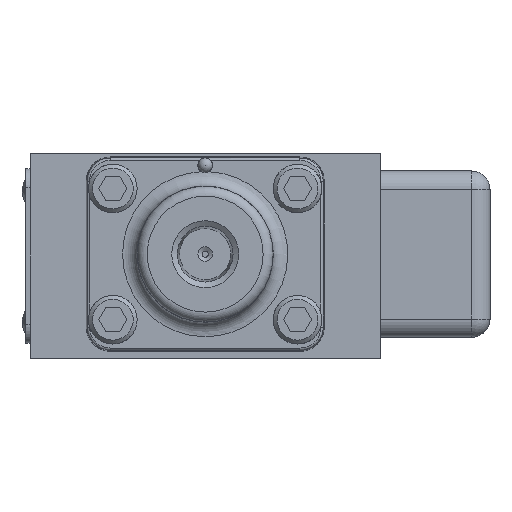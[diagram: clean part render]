
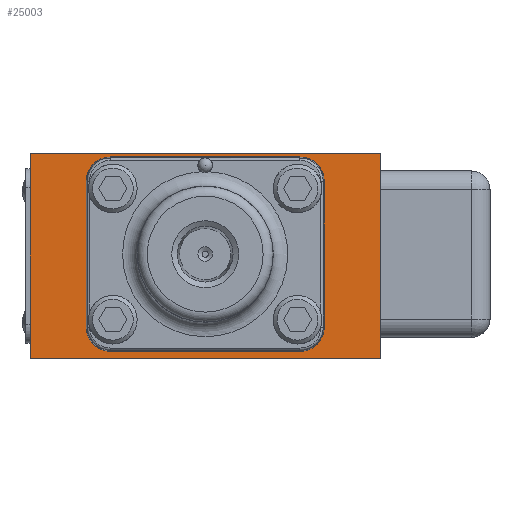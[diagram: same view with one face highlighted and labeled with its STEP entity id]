
A CAD part, left-side view. The second image highlights one B-rep face of the part: STEP entity #25003.
In plain terms, the highlighted planar face has unit normal (-1, 0, 0).
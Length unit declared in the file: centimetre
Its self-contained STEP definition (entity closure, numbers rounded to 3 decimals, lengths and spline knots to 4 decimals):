
#1019=FACE_BOUND('',#4019,.T.);
#1400=PLANE('',#27222);
#2414=FACE_OUTER_BOUND('',#4018,.T.);
#4018=EDGE_LOOP('',(#18539,#18540,#18541,#18542));
#4019=EDGE_LOOP('',(#18543,#18544,#18545,#18546,#18547,#18548,#18549,#18550));
#5596=LINE('',#41622,#7215);
#5604=LINE('',#41654,#7223);
#5630=LINE('',#41738,#7249);
#5699=LINE('',#42506,#7318);
#5700=LINE('',#42511,#7319);
#5701=LINE('',#42515,#7320);
#5702=LINE('',#42519,#7321);
#5703=LINE('',#42522,#7322);
#7215=VECTOR('',#31636,1.);
#7223=VECTOR('',#31662,1.);
#7249=VECTOR('',#31754,1.);
#7318=VECTOR('',#32183,1.);
#7319=VECTOR('',#32186,1.);
#7320=VECTOR('',#32189,1.);
#7321=VECTOR('',#32192,1.);
#7322=VECTOR('',#32195,1.);
#8887=CIRCLE('',#27223,0.4064);
#8888=CIRCLE('',#27224,0.4064);
#8889=CIRCLE('',#27225,0.4064);
#8890=CIRCLE('',#27226,0.4064);
#10586=VERTEX_POINT('',#41619);
#10587=VERTEX_POINT('',#41621);
#10602=VERTEX_POINT('',#41653);
#10627=VERTEX_POINT('',#41737);
#10745=VERTEX_POINT('',#42507);
#10746=VERTEX_POINT('',#42508);
#10747=VERTEX_POINT('',#42510);
#10748=VERTEX_POINT('',#42512);
#10749=VERTEX_POINT('',#42514);
#10750=VERTEX_POINT('',#42516);
#10751=VERTEX_POINT('',#42518);
#10752=VERTEX_POINT('',#42520);
#13292=EDGE_CURVE('',#10587,#10586,#5596,.T.);
#13308=EDGE_CURVE('',#10602,#10587,#5604,.T.);
#13347=EDGE_CURVE('',#10627,#10602,#5630,.T.);
#13534=EDGE_CURVE('',#10586,#10627,#5699,.T.);
#13535=EDGE_CURVE('',#10745,#10746,#8887,.T.);
#13536=EDGE_CURVE('',#10746,#10747,#5700,.T.);
#13537=EDGE_CURVE('',#10747,#10748,#8888,.T.);
#13538=EDGE_CURVE('',#10748,#10749,#5701,.T.);
#13539=EDGE_CURVE('',#10749,#10750,#8889,.T.);
#13540=EDGE_CURVE('',#10750,#10751,#5702,.T.);
#13541=EDGE_CURVE('',#10751,#10752,#8890,.T.);
#13542=EDGE_CURVE('',#10752,#10745,#5703,.T.);
#18539=ORIENTED_EDGE('',*,*,#13292,.T.);
#18540=ORIENTED_EDGE('',*,*,#13534,.T.);
#18541=ORIENTED_EDGE('',*,*,#13347,.T.);
#18542=ORIENTED_EDGE('',*,*,#13308,.T.);
#18543=ORIENTED_EDGE('',*,*,#13535,.T.);
#18544=ORIENTED_EDGE('',*,*,#13536,.T.);
#18545=ORIENTED_EDGE('',*,*,#13537,.T.);
#18546=ORIENTED_EDGE('',*,*,#13538,.T.);
#18547=ORIENTED_EDGE('',*,*,#13539,.T.);
#18548=ORIENTED_EDGE('',*,*,#13540,.T.);
#18549=ORIENTED_EDGE('',*,*,#13541,.T.);
#18550=ORIENTED_EDGE('',*,*,#13542,.T.);
#25003=ADVANCED_FACE('',(#2414,#1019),#1400,.T.);
#27222=AXIS2_PLACEMENT_3D('',#42505,#32181,#32182);
#27223=AXIS2_PLACEMENT_3D('',#42509,#32184,#32185);
#27224=AXIS2_PLACEMENT_3D('',#42513,#32187,#32188);
#27225=AXIS2_PLACEMENT_3D('',#42517,#32190,#32191);
#27226=AXIS2_PLACEMENT_3D('',#42521,#32193,#32194);
#31636=DIRECTION('',(0.,1.,0.));
#31662=DIRECTION('',(0.,0.,1.));
#31754=DIRECTION('',(0.,-1.,0.));
#32181=DIRECTION('center_axis',(-1.,0.,0.));
#32182=DIRECTION('ref_axis',(0.,0.,1.));
#32183=DIRECTION('',(0.,0.,-1.));
#32184=DIRECTION('center_axis',(1.,0.,0.));
#32185=DIRECTION('ref_axis',(0.,-1.,0.));
#32186=DIRECTION('',(0.,0.,1.));
#32187=DIRECTION('center_axis',(1.,0.,0.));
#32188=DIRECTION('ref_axis',(0.,0.,-1.));
#32189=DIRECTION('',(0.,-1.,0.));
#32190=DIRECTION('center_axis',(1.,0.,0.));
#32191=DIRECTION('ref_axis',(0.,1.,0.));
#32192=DIRECTION('',(0.,0.,-1.));
#32193=DIRECTION('center_axis',(1.,0.,0.));
#32194=DIRECTION('ref_axis',(0.,0.,1.));
#32195=DIRECTION('',(0.,1.,0.));
#41619=CARTESIAN_POINT('',(-4.7117,2.8575,1.6662));
#41621=CARTESIAN_POINT('',(-4.7117,-2.8575,1.6662));
#41622=CARTESIAN_POINT('',(-4.7117,-2.8575,1.6662));
#41653=CARTESIAN_POINT('',(-4.7117,-2.8575,-1.6662));
#41654=CARTESIAN_POINT('',(-4.7117,-2.8575,0.));
#41737=CARTESIAN_POINT('',(-4.7117,2.8575,-1.6662));
#41738=CARTESIAN_POINT('',(-4.7117,-2.8575,-1.6662));
#42505=CARTESIAN_POINT('Origin',(-4.7117,-2.8575,0.));
#42506=CARTESIAN_POINT('',(-4.7117,2.8575,0.));
#42507=CARTESIAN_POINT('',(-4.7117,1.538,-1.557));
#42508=CARTESIAN_POINT('',(-4.7117,1.9444,-1.1506));
#42509=CARTESIAN_POINT('Origin',(-4.7117,1.538,-1.1506));
#42510=CARTESIAN_POINT('',(-4.7117,1.9444,1.2116));
#42511=CARTESIAN_POINT('',(-4.7117,1.9444,-0.5753));
#42512=CARTESIAN_POINT('',(-4.7117,1.538,1.618));
#42513=CARTESIAN_POINT('Origin',(-4.7117,1.538,1.2116));
#42514=CARTESIAN_POINT('',(-4.7117,-1.538,1.618));
#42515=CARTESIAN_POINT('',(-4.7117,-0.6598,1.618));
#42516=CARTESIAN_POINT('',(-4.7117,-1.9444,1.2116));
#42517=CARTESIAN_POINT('Origin',(-4.7117,-1.538,1.2116));
#42518=CARTESIAN_POINT('',(-4.7117,-1.9444,-1.1506));
#42519=CARTESIAN_POINT('',(-4.7117,-1.9444,0.6058));
#42520=CARTESIAN_POINT('',(-4.7117,-1.538,-1.557));
#42521=CARTESIAN_POINT('Origin',(-4.7117,-1.538,-1.1506));
#42522=CARTESIAN_POINT('',(-4.7117,-2.1977,-1.557));
